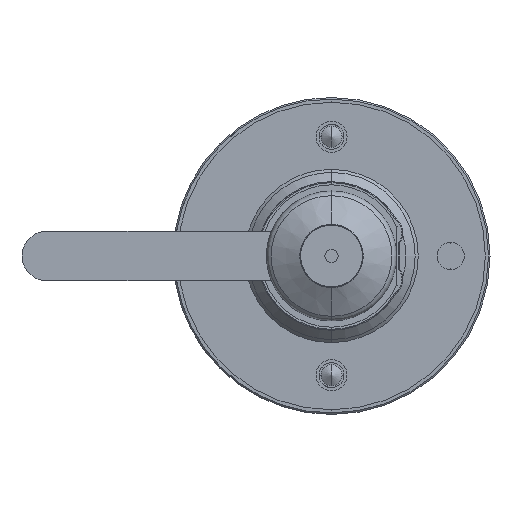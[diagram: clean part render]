
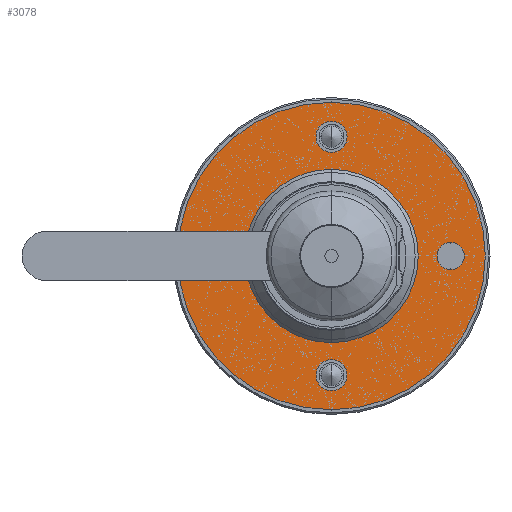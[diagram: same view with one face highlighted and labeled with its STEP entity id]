
A CAD part, front view. The second image highlights one B-rep face of the part: STEP entity #3078.
In plain terms, the highlighted planar face has unit normal (0, -1, 0) as drawn and (0, 0, -1) by its records, which use the part's own axes.
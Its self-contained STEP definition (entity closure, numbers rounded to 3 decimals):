
#56 = DIRECTION ( 'NONE',  ( 0., 0., 1. ) ) ;
#322 = DIRECTION ( 'NONE',  ( 0., 0., 1. ) ) ;
#839 = AXIS2_PLACEMENT_3D ( 'NONE', #4977, #56, #14070 ) ;
#1152 = VERTEX_POINT ( 'NONE', #10130 ) ;
#1470 = DIRECTION ( 'NONE',  ( -1., 0., 0. ) ) ;
#1544 = VERTEX_POINT ( 'NONE', #7047 ) ;
#1772 = FACE_BOUND ( 'NONE', #16616, .T. ) ;
#1859 = DIRECTION ( 'NONE',  ( -1., 0., 0. ) ) ;
#2247 = VERTEX_POINT ( 'NONE', #14872 ) ;
#2564 = EDGE_CURVE ( 'NONE', #12205, #5944, #20060, .T. ) ;
#2578 = DIRECTION ( 'NONE',  ( 0., 0., 1. ) ) ;
#2828 = ORIENTED_EDGE ( 'NONE', *, *, #18823, .T. ) ;
#2880 = CARTESIAN_POINT ( 'NONE',  ( 0., 0., 0. ) ) ;
#3078 = ADVANCED_FACE ( 'NONE', ( #22190, #26675, #22346, #24294, #26819, #1772 ), #20646, .T. ) ;
#3166 = CARTESIAN_POINT ( 'NONE',  ( 0., 38.5, 0. ) ) ;
#3422 = CARTESIAN_POINT ( 'NONE',  ( 0., 0., 0. ) ) ;
#3557 = AXIS2_PLACEMENT_3D ( 'NONE', #7601, #20865, #21151 ) ;
#4202 = CIRCLE ( 'NONE', #23256, 49.675 ) ;
#4523 = CARTESIAN_POINT ( 'NONE',  ( -38.5, 0., 0. ) ) ;
#4977 = CARTESIAN_POINT ( 'NONE',  ( -38.5, 0., 0. ) ) ;
#5154 = EDGE_CURVE ( 'NONE', #1544, #28441, #23894, .T. ) ;
#5386 = CARTESIAN_POINT ( 'NONE',  ( 4.4, 38.5, 0. ) ) ;
#5458 = CIRCLE ( 'NONE', #3557, 5. ) ;
#5944 = VERTEX_POINT ( 'NONE', #26477 ) ;
#6258 = CARTESIAN_POINT ( 'NONE',  ( 22., 0., 0. ) ) ;
#6383 = DIRECTION ( 'NONE',  ( -1., 0., 0. ) ) ;
#6475 = DIRECTION ( 'NONE',  ( 1., 0., 0. ) ) ;
#6544 = CIRCLE ( 'NONE', #23217, 5. ) ;
#6913 = VERTEX_POINT ( 'NONE', #12075 ) ;
#7047 = CARTESIAN_POINT ( 'NONE',  ( -22., 0., 0. ) ) ;
#7222 = AXIS2_PLACEMENT_3D ( 'NONE', #3166, #15243, #24032 ) ;
#7436 = VERTEX_POINT ( 'NONE', #28645 ) ;
#7586 = AXIS2_PLACEMENT_3D ( 'NONE', #27057, #10973, #1859 ) ;
#7601 = CARTESIAN_POINT ( 'NONE',  ( 38.5, 0., 0. ) ) ;
#7615 = ORIENTED_EDGE ( 'NONE', *, *, #23247, .T. ) ;
#8563 = EDGE_CURVE ( 'NONE', #10885, #1152, #27316, .T. ) ;
#9110 = AXIS2_PLACEMENT_3D ( 'NONE', #17016, #10859, #14777 ) ;
#9173 = EDGE_CURVE ( 'NONE', #28441, #1544, #20168, .T. ) ;
#9923 = EDGE_LOOP ( 'NONE', ( #15058, #7615 ) ) ;
#10130 = CARTESIAN_POINT ( 'NONE',  ( 4.4, -38.5, 0. ) ) ;
#10416 = ORIENTED_EDGE ( 'NONE', *, *, #9173, .T. ) ;
#10505 = AXIS2_PLACEMENT_3D ( 'NONE', #14189, #322, #11963 ) ;
#10859 = DIRECTION ( 'NONE',  ( 0., 0., 1. ) ) ;
#10885 = VERTEX_POINT ( 'NONE', #22552 ) ;
#10888 = DIRECTION ( 'NONE',  ( -1., 0., 0. ) ) ;
#10973 = DIRECTION ( 'NONE',  ( 0., 0., -1. ) ) ;
#11162 = AXIS2_PLACEMENT_3D ( 'NONE', #13502, #22128, #6475 ) ;
#11578 = DIRECTION ( 'NONE',  ( 0., 0., -1. ) ) ;
#11963 = DIRECTION ( 'NONE',  ( -1., 0., 0. ) ) ;
#12075 = CARTESIAN_POINT ( 'NONE',  ( -33.5, 0., 0. ) ) ;
#12205 = VERTEX_POINT ( 'NONE', #5386 ) ;
#12281 = CIRCLE ( 'NONE', #839, 5. ) ;
#12966 = AXIS2_PLACEMENT_3D ( 'NONE', #2880, #2578, #18531 ) ;
#13261 = DIRECTION ( 'NONE',  ( 0., 0., 1. ) ) ;
#13502 = CARTESIAN_POINT ( 'NONE',  ( 0., 0., 0. ) ) ;
#13893 = CARTESIAN_POINT ( 'NONE',  ( -49.675, 0., 0. ) ) ;
#14070 = DIRECTION ( 'NONE',  ( -1., 0., 0. ) ) ;
#14189 = CARTESIAN_POINT ( 'NONE',  ( 38.5, 0., 0. ) ) ;
#14777 = DIRECTION ( 'NONE',  ( -1., 0., 0. ) ) ;
#14872 = CARTESIAN_POINT ( 'NONE',  ( -43.5, 0., 0. ) ) ;
#14997 = EDGE_CURVE ( 'NONE', #6913, #2247, #6544, .T. ) ;
#15058 = ORIENTED_EDGE ( 'NONE', *, *, #27447, .T. ) ;
#15243 = DIRECTION ( 'NONE',  ( 0., 0., 1. ) ) ;
#15470 = ORIENTED_EDGE ( 'NONE', *, *, #8563, .T. ) ;
#15782 = VERTEX_POINT ( 'NONE', #26930 ) ;
#16616 = EDGE_LOOP ( 'NONE', ( #10416, #17127 ) ) ;
#17016 = CARTESIAN_POINT ( 'NONE',  ( 0., -38.5, 0. ) ) ;
#17127 = ORIENTED_EDGE ( 'NONE', *, *, #5154, .T. ) ;
#17632 = CIRCLE ( 'NONE', #19989, 4.4 ) ;
#17766 = EDGE_CURVE ( 'NONE', #2247, #6913, #12281, .T. ) ;
#18531 = DIRECTION ( 'NONE',  ( 1., 0., 0. ) ) ;
#18823 = EDGE_CURVE ( 'NONE', #26660, #19185, #4202, .T. ) ;
#18949 = ORIENTED_EDGE ( 'NONE', *, *, #21759, .T. ) ;
#19185 = VERTEX_POINT ( 'NONE', #21709 ) ;
#19989 = AXIS2_PLACEMENT_3D ( 'NONE', #26483, #23802, #24099 ) ;
#20060 = CIRCLE ( 'NONE', #7222, 4.4 ) ;
#20168 = CIRCLE ( 'NONE', #11162, 22. ) ;
#20460 = DIRECTION ( 'NONE',  ( -1., 0., 0. ) ) ;
#20646 = PLANE ( 'NONE',  #26301 ) ;
#20865 = DIRECTION ( 'NONE',  ( 0., 0., 1. ) ) ;
#21151 = DIRECTION ( 'NONE',  ( -1., 0., 0. ) ) ;
#21709 = CARTESIAN_POINT ( 'NONE',  ( 49.675, 0., 0. ) ) ;
#21732 = ORIENTED_EDGE ( 'NONE', *, *, #25077, .T. ) ;
#21759 = EDGE_CURVE ( 'NONE', #19185, #26660, #28549, .T. ) ;
#22046 = CARTESIAN_POINT ( 'NONE',  ( 22., 0., 0. ) ) ;
#22128 = DIRECTION ( 'NONE',  ( 0., 0., 1. ) ) ;
#22190 = FACE_OUTER_BOUND ( 'NONE', #25048, .T. ) ;
#22346 = FACE_BOUND ( 'NONE', #24868, .T. ) ;
#22432 = CIRCLE ( 'NONE', #9110, 4.4 ) ;
#22552 = CARTESIAN_POINT ( 'NONE',  ( -4.4, -38.5, 0. ) ) ;
#22848 = EDGE_CURVE ( 'NONE', #5944, #12205, #17632, .T. ) ;
#23001 = DIRECTION ( 'NONE',  ( 0., 0., 1. ) ) ;
#23217 = AXIS2_PLACEMENT_3D ( 'NONE', #4523, #23001, #20460 ) ;
#23247 = EDGE_CURVE ( 'NONE', #7436, #15782, #24779, .T. ) ;
#23256 = AXIS2_PLACEMENT_3D ( 'NONE', #3422, #26238, #1470 ) ;
#23399 = ORIENTED_EDGE ( 'NONE', *, *, #22848, .T. ) ;
#23802 = DIRECTION ( 'NONE',  ( 0., 0., 1. ) ) ;
#23894 = CIRCLE ( 'NONE', #12966, 22. ) ;
#24032 = DIRECTION ( 'NONE',  ( -1., 0., 0. ) ) ;
#24099 = DIRECTION ( 'NONE',  ( -1., 0., 0. ) ) ;
#24294 = FACE_BOUND ( 'NONE', #9923, .T. ) ;
#24779 = CIRCLE ( 'NONE', #10505, 5. ) ;
#24868 = EDGE_LOOP ( 'NONE', ( #23399, #27308 ) ) ;
#25024 = CARTESIAN_POINT ( 'NONE',  ( 0., -38.5, 0. ) ) ;
#25048 = EDGE_LOOP ( 'NONE', ( #18949, #2828 ) ) ;
#25077 = EDGE_CURVE ( 'NONE', #1152, #10885, #22432, .T. ) ;
#26018 = EDGE_LOOP ( 'NONE', ( #15470, #21732 ) ) ;
#26147 = EDGE_LOOP ( 'NONE', ( #27453, #26475 ) ) ;
#26238 = DIRECTION ( 'NONE',  ( 0., 0., -1. ) ) ;
#26301 = AXIS2_PLACEMENT_3D ( 'NONE', #22046, #11578, #10888 ) ;
#26475 = ORIENTED_EDGE ( 'NONE', *, *, #14997, .T. ) ;
#26477 = CARTESIAN_POINT ( 'NONE',  ( -4.4, 38.5, 0. ) ) ;
#26483 = CARTESIAN_POINT ( 'NONE',  ( 0., 38.5, 0. ) ) ;
#26660 = VERTEX_POINT ( 'NONE', #13893 ) ;
#26675 = FACE_BOUND ( 'NONE', #26018, .T. ) ;
#26819 = FACE_BOUND ( 'NONE', #26147, .T. ) ;
#26930 = CARTESIAN_POINT ( 'NONE',  ( 33.5, 0., 0. ) ) ;
#27057 = CARTESIAN_POINT ( 'NONE',  ( 0., 0., 0. ) ) ;
#27308 = ORIENTED_EDGE ( 'NONE', *, *, #2564, .T. ) ;
#27316 = CIRCLE ( 'NONE', #28745, 4.4 ) ;
#27447 = EDGE_CURVE ( 'NONE', #15782, #7436, #5458, .T. ) ;
#27453 = ORIENTED_EDGE ( 'NONE', *, *, #17766, .T. ) ;
#28441 = VERTEX_POINT ( 'NONE', #6258 ) ;
#28549 = CIRCLE ( 'NONE', #7586, 49.675 ) ;
#28645 = CARTESIAN_POINT ( 'NONE',  ( 43.5, 0., 0. ) ) ;
#28745 = AXIS2_PLACEMENT_3D ( 'NONE', #25024, #13261, #6383 ) ;
